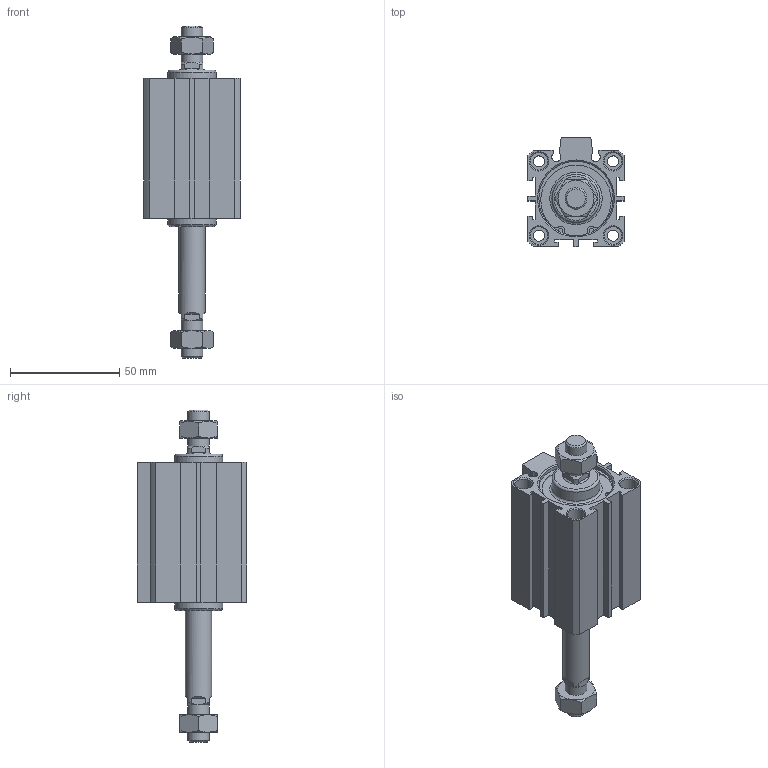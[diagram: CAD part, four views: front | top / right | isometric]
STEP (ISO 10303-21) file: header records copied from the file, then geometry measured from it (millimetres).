
FILE_DESCRIPTION((''),'2;1');
FILE_NAME('I:\3D電子目錄\氣缸\JDD\JDD-B\JDD32-B\JDD32x40-B.stp','2007-02-09T16:41:26',('662F206'),(''),'Autodesk Inventor 10','Autodesk Inventor 10','');
FILE_SCHEMA(('AUTOMOTIVE_DESIGN { 1 0 10303 214 1 1 1 1 }'));
Length unit declared in the file: millimetre
Products named in the file (3): JDD32-B; R 形環 35
Assembly tree (3 placements, depth 2):
  JDD32-B
    JDD32-B
    R 形環 35  x2
Bounding box: 44 x 50 x 152 mm (x, y, z)
Volume: 119175.5 mm3; surface area: 32611.3 mm2
Topology: 3 solids, 3 shells, 207 faces, 489 edges, 314 vertices
Faces by surface type: plane 112, cylinder 53, cone 38, bspline 2, torus 2
Full cylindrical faces by diameter (mm): 1.9 x4, 2.2 x2, 5.1 x4, 8 x8, 10 x4, 12 x1, 22 x2, 34 x4, 36 x2
Entity records: 5397 total; most frequent: CARTESIAN_POINT 1081, DIRECTION 894, ORIENTED_EDGE 802, EDGE_CURVE 401, AXIS2_PLACEMENT_3D 346, VERTEX_POINT 287, EDGE_LOOP 284, VECTOR 202
